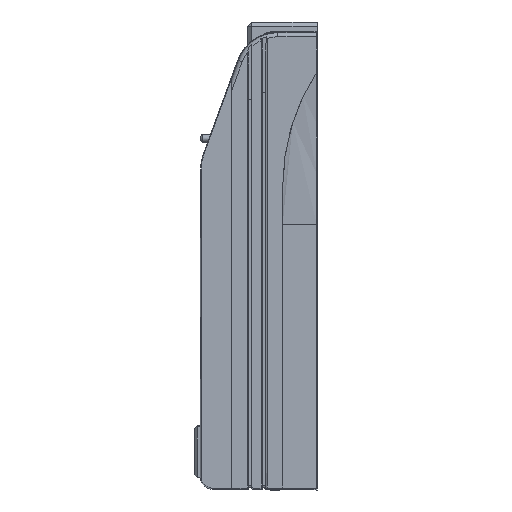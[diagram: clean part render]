
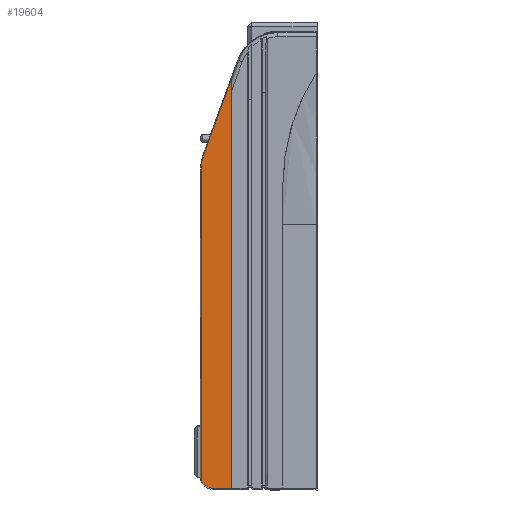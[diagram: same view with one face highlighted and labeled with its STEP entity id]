
A CAD part, left-side view. The second image highlights one B-rep face of the part: STEP entity #19604.
In plain terms, the highlighted planar face has unit normal (-1, 0, 0).
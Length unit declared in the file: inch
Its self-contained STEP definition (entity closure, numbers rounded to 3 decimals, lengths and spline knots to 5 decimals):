
#347 = AXIS2_PLACEMENT_3D ( 'NONE', #14616, #41745, #18496 ) ;
#1182 = CARTESIAN_POINT ( 'NONE',  ( 0.015, 1.68, 6.558 ) ) ;
#1407 = DIRECTION ( 'NONE',  ( 0., 0., -1. ) ) ;
#1686 = ORIENTED_EDGE ( 'NONE', *, *, #7038, .T. ) ;
#3672 = CARTESIAN_POINT ( 'NONE',  ( 0.015, 1.68, -0.02559 ) ) ;
#4481 = CARTESIAN_POINT ( 'NONE',  ( 0.015, 1.62688, 4.78094 ) ) ;
#5007 = CARTESIAN_POINT ( 'NONE',  ( 0.015, 1.225, -0.042 ) ) ;
#5107 = DIRECTION ( 'NONE',  ( 0., 1., 0. ) ) ;
#7038 = EDGE_CURVE ( 'NONE', #13852, #40884, #41157, .T. ) ;
#9519 = VECTOR ( 'NONE', #23163, 39.37008 ) ;
#10454 = CARTESIAN_POINT ( 'NONE',  ( 0.015, 1.66359, 6.558 ) ) ;
#10603 = DIRECTION ( 'NONE',  ( 0., 0., -1. ) ) ;
#11237 = ORIENTED_EDGE ( 'NONE', *, *, #30892, .F. ) ;
#13738 = CIRCLE ( 'NONE', #347, 0.60859 ) ;
#13852 = VERTEX_POINT ( 'NONE', #48129 ) ;
#14376 = CARTESIAN_POINT ( 'NONE',  ( 0.015, 1.49, 0.148 ) ) ;
#14616 = CARTESIAN_POINT ( 'NONE',  ( 0.015, 1.055, 4.5728 ) ) ;
#14668 = VERTEX_POINT ( 'NONE', #4481 ) ;
#18280 = DIRECTION ( 'NONE',  ( 0., 1., 0. ) ) ;
#18496 = DIRECTION ( 'NONE',  ( 0., 1., 0. ) ) ;
#18992 = EDGE_CURVE ( 'NONE', #35161, #22402, #20237, .T. ) ;
#19145 = ORIENTED_EDGE ( 'NONE', *, *, #37023, .T. ) ;
#19604 = ADVANCED_FACE ( 'NONE', ( #20196 ), #35581, .T. ) ;
#19818 = LINE ( 'NONE', #3672, #9519 ) ;
#20196 = FACE_OUTER_BOUND ( 'NONE', #45299, .T. ) ;
#20237 = LINE ( 'NONE', #5007, #39684 ) ;
#22331 = ORIENTED_EDGE ( 'NONE', *, *, #36200, .T. ) ;
#22402 = VERTEX_POINT ( 'NONE', #31431 ) ;
#23163 = DIRECTION ( 'NONE',  ( 0., -1., 0. ) ) ;
#25399 = EDGE_CURVE ( 'NONE', #40884, #22402, #19818, .T. ) ;
#26045 = ORIENTED_EDGE ( 'NONE', *, *, #18992, .F. ) ;
#26438 = LINE ( 'NONE', #33688, #47095 ) ;
#28264 = DIRECTION ( 'NONE',  ( -1., 0., 0. ) ) ;
#30892 = EDGE_CURVE ( 'NONE', #14668, #35161, #26438, .T. ) ;
#31431 = CARTESIAN_POINT ( 'NONE',  ( 0.015, 1.225, -0.02559 ) ) ;
#32663 = AXIS2_PLACEMENT_3D ( 'NONE', #14376, #41507, #18280 ) ;
#33688 = CARTESIAN_POINT ( 'NONE',  ( 0.015, 1.06196, 6.33305 ) ) ;
#34019 = VERTEX_POINT ( 'NONE', #44636 ) ;
#34769 = AXIS2_PLACEMENT_3D ( 'NONE', #1182, #28264, #5107 ) ;
#35161 = VERTEX_POINT ( 'NONE', #46256 ) ;
#35581 = PLANE ( 'NONE',  #34769 ) ;
#36200 = EDGE_CURVE ( 'NONE', #14668, #34019, #13738, .T. ) ;
#36616 = CARTESIAN_POINT ( 'NONE',  ( 0.015, 1.49, -0.02559 ) ) ;
#37023 = EDGE_CURVE ( 'NONE', #34019, #13852, #48829, .T. ) ;
#38486 = VECTOR ( 'NONE', #10603, 39.37008 ) ;
#39684 = VECTOR ( 'NONE', #1407, 39.37008 ) ;
#40884 = VERTEX_POINT ( 'NONE', #36616 ) ;
#41157 = CIRCLE ( 'NONE', #32663, 0.17359 ) ;
#41507 = DIRECTION ( 'NONE',  ( -1., 0., 0. ) ) ;
#41745 = DIRECTION ( 'NONE',  ( -1., 0., 0. ) ) ;
#41966 = ORIENTED_EDGE ( 'NONE', *, *, #25399, .T. ) ;
#42512 = DIRECTION ( 'NONE',  ( 0., -0.342, 0.94 ) ) ;
#44636 = CARTESIAN_POINT ( 'NONE',  ( 0.015, 1.66359, 4.5728 ) ) ;
#45299 = EDGE_LOOP ( 'NONE', ( #19145, #1686, #41966, #26045, #11237, #22331 ) ) ;
#46256 = CARTESIAN_POINT ( 'NONE',  ( 0.015, 1.225, 5.88511 ) ) ;
#47095 = VECTOR ( 'NONE', #42512, 39.37008 ) ;
#48129 = CARTESIAN_POINT ( 'NONE',  ( 0.015, 1.66359, 0.148 ) ) ;
#48829 = LINE ( 'NONE', #10454, #38486 ) ;
